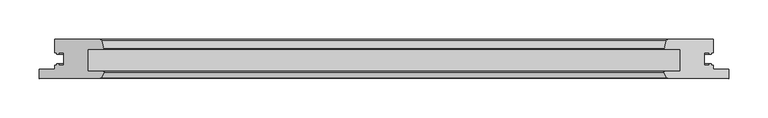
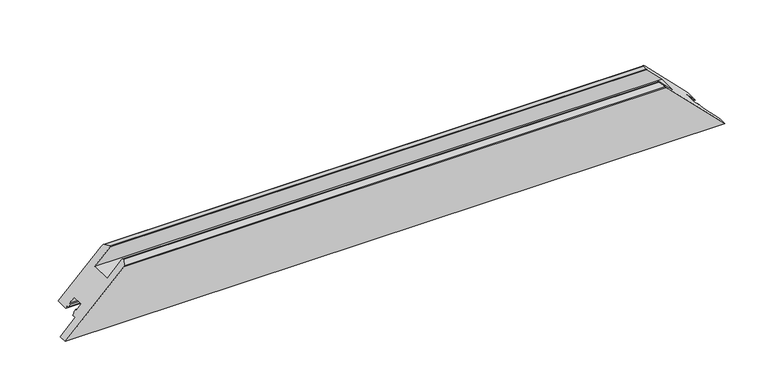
"""IFC4 building model written with IfcOpenShell, lengths in millimetres: proxy geometry, Weiku - Montante - Folha 02.2.01.017 : Weiku - Montante - Folha 02.2.01.017."""

from ifc_helpers import new_model, si_unit, frame, origin, place, context, project, spatial, ellipse_curve, source, transform, mapped, element, save
from ifc_brep_helpers import plane_surface, cylinder_surface, advanced_brep


def generic_models_0b59aa09(model_context):
    return source(origin(), model_context, "Body", "AdvancedBrep", [
        advanced_brep(
        [(-419.1818182, 50.0, 20.0), (-362.1815514, 50.0, 77.0002668), (362.1815514, 50.0, 77.0002668), (419.1818182, 50.0, 20.0), (-439.1818182, 0.0, 0.0), (439.1818182, 0.0, 0.0), (361.1690446, 0.0, 78.0127736), (-361.1690446, 0.0, 78.0127736), (-419.1818182, 33.1, 20.0), (-416.9818182, 33.1, 22.2), (-416.9818182, 31.1, 22.2), (-414.1818182, 31.1, 25.0), (-414.1818182, 33.1, 25.0), (-407.6818182, 33.1, 31.5), (-407.6818182, 16.9, 31.5), (-414.1818182, 16.9, 25.0), (-414.1818182, 18.9, 25.0), (-416.9818182, 18.9, 22.2), (-416.9818182, 16.9, 22.2), (-419.1818182, 16.9, 20.0), (-419.1818182, 11.5, 20.0), (-439.1818182, 11.5, 0.0), (-360.2750839, 0.5518546, 78.9067343), (-356.7330978, 7.617411, 82.4487204), (-357.8952467, 9.5, 81.2865715), (-377.6818182, 9.5, 61.5), (-377.6818182, 37.5, 61.5), (-357.1818182, 37.5, 82.0), (-356.6988553, 38.1294095, 82.4829629), (-359.2837739, 47.7764571, 79.8980443), (359.2837739, 47.7764571, 79.8980443), (356.6988553, 38.1294095, 82.4829629), (357.1818182, 37.5, 82.0), (377.6818182, 37.5, 61.5), (377.6818182, 9.5, 61.5), (357.8952467, 9.5, 81.2865715), (356.7330978, 7.617411, 82.4487204), (360.2750839, 0.5518546, 78.9067343), (439.1818182, 11.5, 0.0), (419.1818182, 11.5, 20.0), (419.1818182, 16.9, 20.0), (416.9818182, 16.9, 22.2), (416.9818182, 18.9, 22.2), (414.1818182, 18.9, 25.0), (414.1818182, 16.9, 25.0), (407.6818182, 16.9, 31.5), (407.6818182, 33.1, 31.5), (414.1818182, 33.1, 25.0), (414.1818182, 31.1, 25.0), (416.9818182, 31.1, 22.2), (416.9818182, 33.1, 22.2), (419.1818182, 33.1, 20.0)],
        [
            (0, 1),
            (1, 2),
            (2, 3),
            (3, 0),
            (4, 5),
            (5, 6),
            (6, 7),
            (7, 4),
            (0, 8),
            (8, 9),
            (9, 10),
            (10, 11),
            (11, 12),
            (12, 13),
            (13, 14),
            (14, 15),
            (15, 16),
            (16, 17),
            (17, 18),
            (18, 19),
            (19, 20),
            (20, 21),
            (21, 4),
            (7, 22, ellipse_curve(frame((-361.1690446, 1.0, 78.0127736), z_axis=(-0.7071067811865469, 0.0, 0.7071067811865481), x_axis=(-0.7071067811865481, 0.0, -0.7071067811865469)), 1.4142136, 1.0)),
            (22, 23),
            (23, 24, ellipse_curve(frame((-357.8952467, 8.2, 81.2865715), z_axis=(-0.7071067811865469, 0.0, 0.7071067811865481), x_axis=(-0.7071067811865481, 0.0, -0.7071067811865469)), 1.8384776, 1.3)),
            (24, 25),
            (25, 26),
            (26, 27),
            (27, 28, ellipse_curve(frame((-357.1818182, 38.0, 82.0), z_axis=(-0.7071067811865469, 0.0, 0.7071067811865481), x_axis=(-0.7071067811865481, 0.0, -0.7071067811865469)), 0.7071068, 0.5)),
            (28, 29),
            (29, 1, ellipse_curve(frame((-362.1815514, 47.0, 77.0002668), z_axis=(-0.7071067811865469, 0.0, 0.7071067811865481), x_axis=(-0.7071067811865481, 0.0, -0.7071067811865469)), 4.2426407, 3.0)),
            (2, 30, ellipse_curve(frame((362.1815514, 47.0, 77.0002668), z_axis=(0.7071067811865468, 0.0, 0.7071067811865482), x_axis=(-0.7071067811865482, 0.0, 0.7071067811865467)), 4.2426407, 3.0)),
            (30, 31),
            (31, 32, ellipse_curve(frame((357.1818182, 38.0, 82.0), z_axis=(0.7071067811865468, 0.0, 0.7071067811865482), x_axis=(-0.7071067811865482, 0.0, 0.7071067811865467)), 0.7071068, 0.5)),
            (32, 33),
            (33, 34),
            (34, 35),
            (35, 36, ellipse_curve(frame((357.8952467, 8.2, 81.2865715), z_axis=(0.7071067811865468, 0.0, 0.7071067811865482), x_axis=(-0.7071067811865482, 0.0, 0.7071067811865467)), 1.8384776, 1.3)),
            (36, 37),
            (37, 6, ellipse_curve(frame((361.1690446, 1.0, 78.0127736), z_axis=(0.7071067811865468, 0.0, 0.7071067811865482), x_axis=(-0.7071067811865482, 0.0, 0.7071067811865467)), 1.4142136, 1.0)),
            (5, 38),
            (38, 39),
            (39, 40),
            (40, 41),
            (41, 42),
            (42, 43),
            (43, 44),
            (44, 45),
            (45, 46),
            (46, 47),
            (47, 48),
            (48, 49),
            (49, 50),
            (50, 51),
            (51, 3),
            (37, 22),
            (36, 23),
            (35, 24),
            (34, 25),
            (33, 26),
            (32, 27),
            (31, 28),
            (30, 29),
            (51, 8),
            (50, 9),
            (49, 10),
            (48, 11),
            (47, 12),
            (46, 13),
            (45, 14),
            (44, 15),
            (43, 16),
            (42, 17),
            (41, 18),
            (40, 19),
            (39, 20),
            (38, 21),
        ],
        [
            plane_surface(frame((-439.1818182, 50.0, 77.0002668), z_axis=(0.0, 1.0, 0.0), x_axis=(1.0, 0.0, 0.0))),
            plane_surface(frame((-439.1818182, 0.0, 0.0), z_axis=(0.0, -1.0, 0.0), x_axis=(1.0, 0.0, 0.0))),
            plane_surface(frame((-467.4660894, 0.0, -28.2842712), z_axis=(-0.7071067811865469, 0.0, 0.7071067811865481), x_axis=(0.0, 1.0, 0.0))),
            plane_surface(frame((349.1818182, 0.0, 90.0), z_axis=(0.7071067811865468, 0.0, 0.7071067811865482), x_axis=(0.0, 1.0, 0.0))),
            cylinder_surface(frame((-439.1818182, 1.0, 78.0127736), z_axis=(-1.0, 0.0, 0.0), x_axis=(0.0, 1.0, 0.0)), 1.0),
            plane_surface(frame((-439.1818182, 0.5518546, 78.9067343), z_axis=(0.0, -0.4481453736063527, 0.8939606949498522), x_axis=(1.0, 0.0, 0.0))),
            cylinder_surface(frame((-439.1818182, 8.2, 81.2865715), z_axis=(-1.0, 0.0, 0.0), x_axis=(0.0, 1.0, 0.0)), 1.3),
            plane_surface(frame((-439.1818182, 9.5, 81.2865715), z_axis=(0.0, 1.0, 0.0), x_axis=(1.0, 0.0, 0.0))),
            plane_surface(frame((-439.1818182, 9.5, 61.5), z_axis=(0.0, 0.0, 1.0), x_axis=(1.0, 0.0, 0.0))),
            plane_surface(frame((-439.1818182, 37.5, 61.5), z_axis=(0.0, -1.0, 0.0), x_axis=(1.0, 0.0, 0.0))),
            cylinder_surface(frame((-439.1818182, 38.0, 82.0), z_axis=(-1.0, 0.0, 0.0), x_axis=(0.0, 1.0, 0.0)), 0.5),
            plane_surface(frame((-439.1818182, 38.1294095, 82.4829629), z_axis=(0.0, 0.2588190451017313, 0.9659258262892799), x_axis=(1.0, 0.0, 0.0))),
            cylinder_surface(frame((-439.1818182, 47.0, 77.0002668), z_axis=(-1.0, 0.0, 0.0), x_axis=(0.0, 1.0, 0.0)), 3.0),
            plane_surface(frame((-439.1818182, 50.0, 20.0), z_axis=(0.0, 0.0, -1.0), x_axis=(1.0, 0.0, 0.0))),
            plane_surface(frame((-439.1818182, 33.1, 20.0), z_axis=(0.0, -1.0, 0.0), x_axis=(1.0, 0.0, 0.0))),
            plane_surface(frame((-439.1818182, 33.1, 22.2), z_axis=(0.0, 0.0, -1.0), x_axis=(1.0, 0.0, 0.0))),
            plane_surface(frame((-439.1818182, 31.1, 22.2), z_axis=(0.0, -1.0, 0.0), x_axis=(1.0, 0.0, 0.0))),
            plane_surface(frame((-439.1818182, 31.1, 25.0), z_axis=(0.0, 0.0, 1.0), x_axis=(1.0, 0.0, 0.0))),
            plane_surface(frame((-439.1818182, 33.1, 25.0), z_axis=(0.0, -1.0, 0.0), x_axis=(1.0, 0.0, 0.0))),
            plane_surface(frame((-439.1818182, 33.1, 31.5), z_axis=(0.0, 0.0, -1.0), x_axis=(1.0, 0.0, 0.0))),
            plane_surface(frame((-439.1818182, 16.9, 31.5), z_axis=(0.0, 1.0, 0.0), x_axis=(1.0, 0.0, 0.0))),
            plane_surface(frame((-439.1818182, 16.9, 25.0), z_axis=(0.0, 0.0, 1.0), x_axis=(1.0, 0.0, 0.0))),
            plane_surface(frame((-439.1818182, 18.9, 25.0), z_axis=(0.0, 1.0, 0.0), x_axis=(1.0, 0.0, 0.0))),
            plane_surface(frame((-439.1818182, 18.9, 22.2), z_axis=(0.0, 0.0, -1.0), x_axis=(1.0, 0.0, 0.0))),
            plane_surface(frame((-439.1818182, 16.9, 22.2), z_axis=(0.0, 1.0, 0.0), x_axis=(1.0, 0.0, 0.0))),
            plane_surface(frame((-439.1818182, 16.9, 20.0), z_axis=(0.0, 0.0, -1.0), x_axis=(1.0, 0.0, 0.0))),
            plane_surface(frame((-439.1818182, 11.5, 20.0), z_axis=(0.0, 1.0, 0.0), x_axis=(1.0, 0.0, 0.0))),
            plane_surface(frame((-439.1818182, 11.5, 0.0), z_axis=(0.0, 0.0, -1.0), x_axis=(1.0, 0.0, 0.0))),
        ],
        [
            (0, [[1, 2, 3, 4]]),
            (1, [[5, 6, 7, 8]]),
            (2, [[-1, 9, 10, 11, 12, 13, 14, 15, 16, 17, 18, 19, 20, 21, 22, 23, -8, 24, 25, 26, 27, 28, 29, 30, 31, 32]]),
            (3, [[-3, 33, 34, 35, 36, 37, 38, 39, 40, 41, -6, 42, 43, 44, 45, 46, 47, 48, 49, 50, 51, 52, 53, 54, 55, 56]]),
            (4, [[-24, -7, -41, 57]]),
            (5, [[-25, -57, -40, 58]]),
            (6, [[-26, -58, -39, 59]]),
            (7, [[-27, -59, -38, 60]]),
            (8, [[-28, -60, -37, 61]]),
            (9, [[-29, -61, -36, 62]]),
            (10, [[-30, -62, -35, 63]]),
            (11, [[-31, -63, -34, 64]]),
            (12, [[-32, -64, -33, -2]]),
            (13, [[-9, -4, -56, 65]]),
            (14, [[-10, -65, -55, 66]]),
            (15, [[-11, -66, -54, 67]]),
            (16, [[-12, -67, -53, 68]]),
            (17, [[-13, -68, -52, 69]]),
            (18, [[-14, -69, -51, 70]]),
            (19, [[-15, -70, -50, 71]]),
            (20, [[-16, -71, -49, 72]]),
            (21, [[-17, -72, -48, 73]]),
            (22, [[-18, -73, -47, 74]]),
            (23, [[-19, -74, -46, 75]]),
            (24, [[-20, -75, -45, 76]]),
            (25, [[-21, -76, -44, 77]]),
            (26, [[78, -22, -77, -43]]),
            (27, [[-5, -23, -78, -42]]),
        ],
    ),
    ])


if __name__ == "__main__":
    model = new_model("IFC4")
    model_context = context("Model", 3, world=origin())
    ifc_project = project(units=[si_unit("LENGTHUNIT", "METRE", prefix="MILLI")], contexts=[model_context])
    site = spatial("IfcSite", under=ifc_project)
    building = spatial("IfcBuilding", under=site)
    placement = place(None, origin())
    generic_models_shape = generic_models_0b59aa09(model_context)
    element("IfcBuildingElementProxy", 1, Name="Weiku - Montante - Folha 02.2.01.017 : Weiku - Montante - Folha 02.2.01.017", ObjectType="Weiku - Montante - Folha 02.2.01.017 : Weiku - Montante - Folha 02.2.01.017", at=placement, inside=building, context=model_context, shape_type="MappedRepresentation", body=[
        mapped(generic_models_shape, transform((0.0, 0.0, 0.0), x_axis=(1.0, 0.0, 0.0), y_axis=(0.0, 1.0, 0.0), z_axis=(0.0, 0.0, 1.0))),
    ])
    save(model, "model.ifc")
